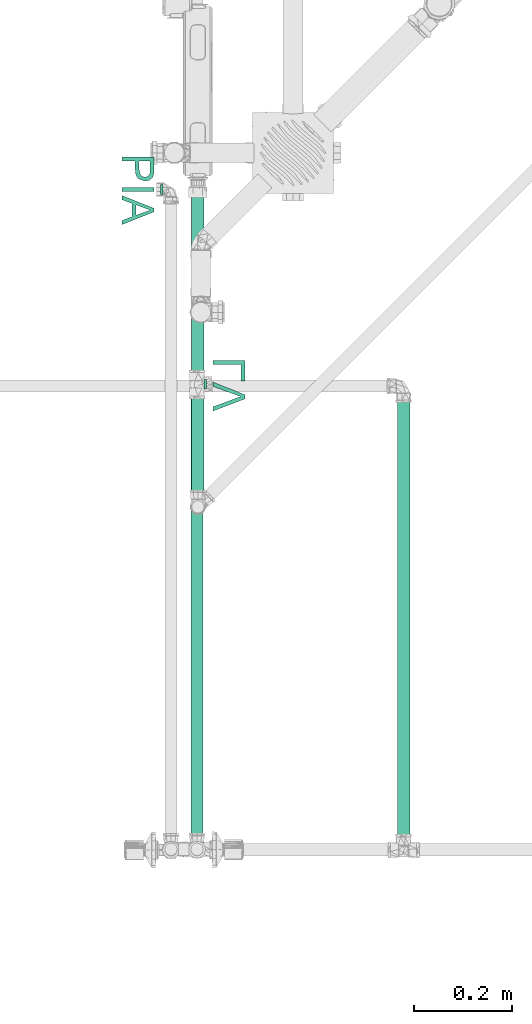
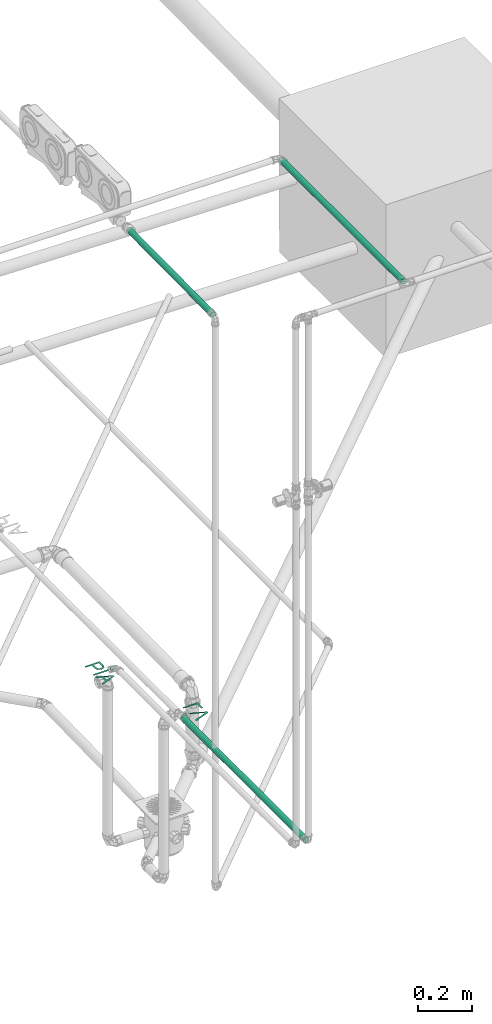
# One storey, part 195 of 589: 3 flow segments, 2 flow terminals.
"""IFC2X3 building model written with IfcOpenShell, lengths in millimetres."""

import ifcopenshell
import ifcopenshell.guid

model = None  # the IFC model being written
_history = None  # IfcOwnerHistory: only IFC2X3 demands one
_inside = {}  # id of a spatial element -> (the spatial element, [elements in it])
_under = {}  # id of a project, library or spatial element -> (it, [spatial elements below it])
_declared = {}  # id of a project -> (the project, [libraries it declares])
_typed = {}  # id of a type object -> (the type object, [elements of that type])
_made_of = {}  # id of a material, layer set ... -> (it, [elements and type objects made of it])


def new_model(schema):
    """Start an empty IFC model of exactly this schema.

    Asked for "IFC4X3", IfcOpenShell would pick the latest addendum, in which some entities
    have other attributes; the version numbers below select the first issue.
    IFC2X3 requires an IfcOwnerHistory on every rooted entity: one is made here for all.
    """
    global model, _history
    if schema == "IFC4X3":
        model = ifcopenshell.file(schema_version=(4, 3, 0, 0))
    else:
        model = ifcopenshell.file(schema=schema)
    _inside.clear()
    _under.clear()
    _declared.clear()
    _typed.clear()
    _made_of.clear()
    _history = None
    if model.schema == "IFC2X3":
        org = make("IfcOrganization", Name="unknown")
        user = make(
            "IfcPersonAndOrganization",
            ThePerson=make("IfcPerson", FamilyName="unknown"),
            TheOrganization=org,
        )
        app = make(
            "IfcApplication",
            ApplicationDeveloper=org,
            Version="unknown",
            ApplicationFullName="unknown",
            ApplicationIdentifier="unknown",
        )
        _history = make(
            "IfcOwnerHistory",
            OwningUser=user,
            OwningApplication=app,
            ChangeAction="ADDED",
            CreationDate=0,
        )
    return model


def make(cls, **values):
    """One entity of the class cls with the attributes given. An attribute that is None is left unset."""
    return model.create_entity(
        cls, **{name: value for name, value in values.items() if value is not None}
    )


def entity(cls, *values):
    """Any entity or typed value of the class cls, its attributes in the order of the schema. None: left unset."""
    e = model.create_entity(cls)
    for i, value in enumerate(values):
        if value is not None:
            e[i] = value
    return e


def rooted(cls, **values):
    """An entity with a GlobalId (a new one), such as an element, a storey or a relation."""
    return make(cls, GlobalId=ifcopenshell.guid.new(), OwnerHistory=_history, **values)


def si_unit(unit_type, name, prefix=None):
    """IfcSIUnit, for example si_unit("LENGTHUNIT", "METRE", prefix="MILLI")."""
    return make("IfcSIUnit", UnitType=unit_type, Prefix=prefix, Name=name)


def converted_unit(unit_type, name, factor, base, dimensions=None, offset=None):
    """IfcConversionBasedUnit, such as the inch: factor (a typed value) times the base unit."""
    return make(
        "IfcConversionBasedUnit"
        if offset is None
        else "IfcConversionBasedUnitWithOffset",
        ConversionOffset=offset,
        Dimensions=None
        if dimensions is None
        else entity("IfcDimensionalExponents", *dimensions),
        UnitType=unit_type,
        Name=name,
        ConversionFactor=make(
            "IfcMeasureWithUnit", ValueComponent=factor, UnitComponent=base
        ),
    )


def derived_unit(unit_type, elements):
    """IfcDerivedUnit: a product of units, each with its exponent."""
    return make(
        "IfcDerivedUnit",
        Elements=[
            make("IfcDerivedUnitElement", Unit=unit, Exponent=power)
            for unit, power in elements
        ],
        UnitType=unit_type,
    )


def assignment(units):
    """IfcUnitAssignment: the units of a project."""
    return None if units is None else make("IfcUnitAssignment", Units=units)


def point(xyz):
    """IfcCartesianPoint."""
    return None if xyz is None else make("IfcCartesianPoint", Coordinates=xyz)


def direction(xyz):
    """IfcDirection."""
    return None if xyz is None else make("IfcDirection", DirectionRatios=xyz)


def frame(location, z_axis=None, x_axis=None):
    """IfcAxis2Placement3D, a coordinate frame: its origin and axes. An axis left out is left unset."""
    return make(
        "IfcAxis2Placement3D",
        Location=point(location),
        Axis=direction(z_axis),
        RefDirection=direction(x_axis),
    )


def frame_2d(location, x_axis=None):
    """IfcAxis2Placement2D, a coordinate frame in the plane: its origin and x axis."""
    return make(
        "IfcAxis2Placement2D", Location=point(location), RefDirection=direction(x_axis)
    )


def origin():
    """The frame at (0, 0, 0) with its axes left unset."""
    return frame((0.0, 0.0, 0.0))


def origin_2d_with_axis():
    """The frame at (0, 0) in the plane with the x axis (1, 0) written out."""
    return frame_2d((0.0, 0.0), x_axis=(1.0, 0.0))


def place(relative_to, where):
    """IfcLocalPlacement: puts the frame where relative to a parent placement (None: the world)."""
    return make(
        "IfcLocalPlacement", PlacementRelTo=relative_to, RelativePlacement=where
    )


def context(
    kind, dimensions, precision=None, world=None, true_north=None, identifier=None
):
    """IfcGeometricRepresentationContext, for example the 3D "Model" context."""
    return make(
        "IfcGeometricRepresentationContext",
        ContextIdentifier=identifier,
        ContextType=kind,
        CoordinateSpaceDimension=dimensions,
        Precision=precision,
        WorldCoordinateSystem=world,
        TrueNorth=true_north,
    )


def subcontext(parent, identifier, kind, view, scale=None):
    """IfcGeometricRepresentationSubContext, for example "Body" below "Model"."""
    return make(
        "IfcGeometricRepresentationSubContext",
        ContextIdentifier=identifier,
        ContextType=kind,
        ParentContext=parent,
        TargetScale=scale,
        TargetView=view,
    )


def project(units=None, contexts=None):
    """IfcProject with its units and contexts."""
    return rooted(
        "IfcProject",
        Name="project",
        RepresentationContexts=contexts,
        UnitsInContext=assignment(units),
    )


def spatial(cls, under=None, at=None, **own):
    """A site, building, storey or space (cls), placed at a placement, below another one or the project."""
    s = rooted(cls, ObjectPlacement=at, **own)
    if under is not None:
        _under.setdefault(under.id(), (under, []))[1].append(s)
    return s


def profile(cls, at=None, kind="AREA", **sizes):
    """A parametric profile (cls). Its sizes go by their IFC names, for example OverallWidth=200.0."""
    return make(cls, ProfileType=kind, Position=at, **sizes)


def circle(**sizes):
    """IfcCircleProfileDef."""
    return profile("IfcCircleProfileDef", **sizes)


def extrude(swept, where, along, depth):
    """IfcExtrudedAreaSolid: the profile swept, set in the frame where, extruded along a direction by depth."""
    return make(
        "IfcExtrudedAreaSolid",
        SweptArea=swept,
        Position=where,
        ExtrudedDirection=direction(along),
        Depth=depth,
    )


def faces_of(points, faces, orient=None, outer=None):
    """IfcFace entities. A face is a list of loops; a loop is a list of indices into points, from 0.

    orient and outer hold one flag for each loop. By default every Orientation is true, the
    first loop of a face is its IfcFaceOuterBound and the others are IfcFaceBound.
    """
    made = []
    for i, loops in enumerate(faces):
        bounds = []
        for j, loop in enumerate(loops):
            is_outer = j == 0 if outer is None else outer[i][j]
            bounds.append(
                make(
                    "IfcFaceOuterBound" if is_outer else "IfcFaceBound",
                    Bound=make("IfcPolyLoop", Polygon=[points[k] for k in loop]),
                    Orientation=True if orient is None else orient[i][j],
                )
            )
        made.append(make("IfcFace", Bounds=bounds))
    return made


def face_set(faces, orient=None, outer=None):
    """The faces of one IfcConnectedFaceSet. surface_model builds it on its shared points."""
    return ("IfcConnectedFaceSet", faces, orient, outer)


def surface_model(cls, points, shells):
    """IfcFaceBasedSurfaceModel or IfcShellBasedSurfaceModel (cls): surfaces that need not close."""
    shared = [point(p) for p in points]
    made = [make(c, CfsFaces=faces_of(shared, fs, o, b)) for c, fs, o, b in shells]
    if cls == "IfcFaceBasedSurfaceModel":
        return make(cls, FbsmFaces=made)
    return make(cls, SbsmBoundary=made)


def shape(context_of_items, identifier, shape_type, items):
    """IfcShapeRepresentation: the items that make up one representation, for example the "Body"."""
    return make(
        "IfcShapeRepresentation",
        ContextOfItems=context_of_items,
        RepresentationIdentifier=identifier,
        RepresentationType=shape_type,
        Items=items,
    )


def source(mapping_origin, context_of_items, identifier, shape_type, items):
    """IfcRepresentationMap: a shape defined once, which mapped items show again and again."""
    return make(
        "IfcRepresentationMap",
        MappingOrigin=mapping_origin,
        MappedRepresentation=shape(context_of_items, identifier, shape_type, items),
    )


def transform(
    local_origin,
    x_axis=None,
    y_axis=None,
    z_axis=None,
    scale=None,
    scale2=None,
    scale3=None,
    uniform=True,
):
    """IfcCartesianTransformationOperator3D, or its non-uniform kind. x_axis, y_axis, z_axis: its Axis1, 2, 3."""
    if uniform:
        return make(
            "IfcCartesianTransformationOperator3D",
            Axis1=direction(x_axis),
            Axis2=direction(y_axis),
            LocalOrigin=point(local_origin),
            Scale=scale,
            Axis3=direction(z_axis),
        )
    return make(
        "IfcCartesianTransformationOperator3DnonUniform",
        Axis1=direction(x_axis),
        Axis2=direction(y_axis),
        LocalOrigin=point(local_origin),
        Scale=scale,
        Axis3=direction(z_axis),
        Scale2=scale2,
        Scale3=scale3,
    )


def mapped(mapping_source, mapping_target):
    """IfcMappedItem: shows the shape of a source again, moved by a transform."""
    return make(
        "IfcMappedItem", MappingSource=mapping_source, MappingTarget=mapping_target
    )


def material(Name=None, Category=None):
    """IfcMaterial."""
    return make("IfcMaterial", Name=Name, Category=Category)


def made_of(thing, what):
    """Note that an element or type object is made of a material, layer set ...; save() writes the relation."""
    if what is not None:
        _made_of.setdefault(what.id(), (what, []))[1].append(thing)
    return thing


def type_object(cls, material=None, **own):
    """A type object (cls), such as IfcWallType, which elements share."""
    return made_of(rooted(cls, **own), material)


def type_shapes(of_type, sources):
    """Give a type object the sources (RepresentationMaps) that its elements show as mapped items."""
    of_type.RepresentationMaps = sources


def element(
    cls,
    number,
    at=None,
    inside=None,
    cuts=None,
    type_object=None,
    material=None,
    context=None,
    identifier="Body",
    shape_type=None,
    held_by="IfcProductDefinitionShape",
    body=None,
    shapes=None,
    **own,
):
    """One element of the class cls, such as IfcWall. Its Tag is "e" and its number.

    at: its placement. inside: the storey or other place that contains it. cuts: it is an
    opening in that element (IfcRelVoidsElement). A single representation is given by context,
    identifier, shape_type and body (its items); several are given by shapes. held_by: the class
    of the entity that holds the representations. save() writes the other relations.
    """
    e = rooted(cls, Tag="e%d" % number, ObjectPlacement=at, **own)
    if body is not None:
        shapes = [shape(context, identifier, shape_type, body)]
    if shapes is not None:
        e.Representation = make(held_by, Representations=shapes)
    if inside is not None:
        _inside.setdefault(inside.id(), (inside, []))[1].append(e)
    if cuts is not None:
        rooted(
            "IfcRelVoidsElement", RelatingBuildingElement=cuts, RelatedOpeningElement=e
        )
    if type_object is not None:
        _typed.setdefault(type_object.id(), (type_object, []))[1].append(e)
    return made_of(e, material)


def aggregate(whole, parts):
    """IfcRelAggregates: a whole, such as a stair, and the parts it consists of."""
    return rooted("IfcRelAggregates", RelatingObject=whole, RelatedObjects=parts)


def save(model, path):
    """Write the relations noted so far, then the file.

    IfcRelAggregates (storeys below a building ...), IfcRelContainedInSpatialStructure (elements
    in a storey), IfcRelDefinesByType, IfcRelAssociatesMaterial and IfcRelDeclares: one each for
    every whole, place, type object, material and project.
    """
    for whole, parts in _under.values():
        aggregate(whole, parts)
    for where, things in _inside.values():
        rooted(
            "IfcRelContainedInSpatialStructure",
            RelatedElements=things,
            RelatingStructure=where,
        )
    for kind, things in _typed.values():
        rooted("IfcRelDefinesByType", RelatedObjects=things, RelatingType=kind)
    for what, things in _made_of.values():
        rooted("IfcRelAssociatesMaterial", RelatedObjects=things, RelatingMaterial=what)
    for by, libraries in _declared.values():
        rooted("IfcRelDeclares", RelatingContext=by, RelatedDefinitions=libraries)
    model.write(path)


model = new_model("IFC2X3")

# Units and contexts
model_context = context("Model", 3, precision=0.01, world=origin(), true_north=direction((6.123031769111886e-17, 1.0)))
body_context = subcontext(model_context, "Body", "Model", "MODEL_VIEW")
ifc_project = project(units=[si_unit("LENGTHUNIT", "METRE", prefix="MILLI"), si_unit("AREAUNIT", "SQUARE_METRE"), si_unit("VOLUMEUNIT", "CUBIC_METRE"), converted_unit("PLANEANGLEUNIT", "DEGREE", entity("IfcRatioMeasure", 0.017453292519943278), si_unit("PLANEANGLEUNIT", "RADIAN"), dimensions=[0, 0, 0, 0, 0, 0, 0]), si_unit("MASSUNIT", "GRAM", prefix="KILO"), derived_unit("MASSDENSITYUNIT", [(si_unit("MASSUNIT", "GRAM", prefix="KILO"), 1), (si_unit("LENGTHUNIT", "METRE"), -3)]), derived_unit("IONCONCENTRATIONUNIT", [(si_unit("MASSUNIT", "GRAM", prefix="KILO"), 1), (si_unit("LENGTHUNIT", "METRE"), -3)]), derived_unit("MOMENTOFINERTIAUNIT", [(si_unit("LENGTHUNIT", "METRE"), 4)]), si_unit("TIMEUNIT", "SECOND"), si_unit("FREQUENCYUNIT", "HERTZ"), si_unit("THERMODYNAMICTEMPERATUREUNIT", "DEGREE_CELSIUS"), derived_unit("THERMALTRANSMITTANCEUNIT", [(si_unit("MASSUNIT", "GRAM", prefix="KILO"), 1), (si_unit("THERMODYNAMICTEMPERATUREUNIT", "KELVIN"), -1), (si_unit("TIMEUNIT", "SECOND"), -3)]), derived_unit("THERMALCONDUCTANCEUNIT", [(si_unit("MASSUNIT", "GRAM", prefix="KILO"), 1), (si_unit("THERMODYNAMICTEMPERATUREUNIT", "KELVIN"), -1), (si_unit("TIMEUNIT", "SECOND"), -3), (si_unit("LENGTHUNIT", "METRE"), 1)]), derived_unit("VOLUMETRICFLOWRATEUNIT", [(si_unit("LENGTHUNIT", "METRE"), 3), (si_unit("TIMEUNIT", "SECOND"), -1)]), derived_unit("MASSFLOWRATEUNIT", [(si_unit("MASSUNIT", "GRAM", prefix="KILO"), 1), (si_unit("TIMEUNIT", "SECOND"), -1)]), derived_unit("ROTATIONALFREQUENCYUNIT", [(si_unit("TIMEUNIT", "SECOND"), -1)]), si_unit("ELECTRICCURRENTUNIT", "AMPERE"), si_unit("ELECTRICVOLTAGEUNIT", "VOLT"), si_unit("POWERUNIT", "WATT"), si_unit("FORCEUNIT", "NEWTON", prefix="KILO"), si_unit("ILLUMINANCEUNIT", "LUX"), si_unit("LUMINOUSFLUXUNIT", "LUMEN"), si_unit("LUMINOUSINTENSITYUNIT", "CANDELA"), derived_unit("USERDEFINED", [(si_unit("MASSUNIT", "GRAM", prefix="KILO"), -1), (si_unit("LENGTHUNIT", "METRE"), -2), (si_unit("TIMEUNIT", "SECOND"), 3), (si_unit("LUMINOUSFLUXUNIT", "LUMEN"), 1)]), derived_unit("USERDEFINED", [(si_unit("MASSUNIT", "GRAM", prefix="KILO"), 1), (si_unit("TIMEUNIT", "SECOND"), -3), (si_unit("LENGTHUNIT", "METRE"), 3), (si_unit("ELECTRICCURRENTUNIT", "AMPERE"), -2)]), derived_unit("SOUNDPOWERUNIT", [(si_unit("MASSUNIT", "GRAM", prefix="KILO"), 1), (si_unit("TIMEUNIT", "SECOND"), -3), (si_unit("LENGTHUNIT", "METRE"), 2)]), derived_unit("SOUNDPRESSUREUNIT", [(si_unit("MASSUNIT", "GRAM", prefix="KILO"), 1), (si_unit("LENGTHUNIT", "METRE"), -1), (si_unit("TIMEUNIT", "SECOND"), -2)]), derived_unit("LINEARVELOCITYUNIT", [(si_unit("LENGTHUNIT", "METRE"), 1), (si_unit("TIMEUNIT", "SECOND"), -1)]), si_unit("PRESSUREUNIT", "PASCAL"), derived_unit("USERDEFINED", [(si_unit("MASSUNIT", "GRAM", prefix="KILO"), 1), (si_unit("LENGTHUNIT", "METRE"), -2), (si_unit("TIMEUNIT", "SECOND"), -2)]), derived_unit("LINEARFORCEUNIT", [(si_unit("MASSUNIT", "GRAM", prefix="KILO"), 1), (si_unit("TIMEUNIT", "SECOND"), -2)]), derived_unit("PLANARFORCEUNIT", [(si_unit("MASSUNIT", "GRAM", prefix="KILO"), 1), (si_unit("LENGTHUNIT", "METRE"), -1), (si_unit("TIMEUNIT", "SECOND"), -2)]), derived_unit("SPECIFICHEATCAPACITYUNIT", [(si_unit("THERMODYNAMICTEMPERATUREUNIT", "KELVIN"), -1), (si_unit("LENGTHUNIT", "METRE"), 2), (si_unit("TIMEUNIT", "SECOND"), -2)]), derived_unit("HEATINGVALUEUNIT", [(si_unit("LENGTHUNIT", "METRE"), 2), (si_unit("TIMEUNIT", "SECOND"), -2)]), derived_unit("VAPORPERMEABILITYUNIT", [(si_unit("LENGTHUNIT", "METRE"), -1), (si_unit("TIMEUNIT", "SECOND"), 1)]), derived_unit("DYNAMICVISCOSITYUNIT", [(si_unit("MASSUNIT", "GRAM", prefix="KILO"), 1), (si_unit("TIMEUNIT", "SECOND"), -1), (si_unit("LENGTHUNIT", "METRE"), -1)]), derived_unit("THERMALEXPANSIONCOEFFICIENTUNIT", [(si_unit("THERMODYNAMICTEMPERATUREUNIT", "KELVIN"), -1)]), derived_unit("MODULUSOFELASTICITYUNIT", [(si_unit("MASSUNIT", "GRAM", prefix="KILO"), 1), (si_unit("LENGTHUNIT", "METRE"), -1), (si_unit("TIMEUNIT", "SECOND"), -2)]), derived_unit("ISOTHERMALMOISTURECAPACITYUNIT", [(si_unit("LENGTHUNIT", "METRE"), 3), (si_unit("MASSUNIT", "GRAM", prefix="KILO"), -1)]), derived_unit("MOISTUREDIFFUSIVITYUNIT", [(si_unit("TIMEUNIT", "SECOND"), -1), (si_unit("LENGTHUNIT", "METRE"), 2)])], contexts=[model_context])

# Site, building, storey
site_placement = place(None, origin())
site = spatial("IfcSite", under=ifc_project, at=site_placement, Name="Default", CompositionType="ELEMENT")
building_placement = place(site_placement, origin())
building = spatial("IfcBuilding", under=site, at=building_placement, CompositionType="ELEMENT")
storey_placement = place(building_placement, frame((0.0, 0.0, 100.0)))
storey = spatial("IfcBuildingStorey", under=building, at=storey_placement, Name="TÉRREO", CompositionType="ELEMENT", Elevation=100.0)

# Flow segments
pipe_segment_type = type_object("IfcPipeSegmentType", Name="Tipos de tubos:PVC Marrom Soldável", PredefinedType="NOTDEFINED")
flow_segment_1_placement = place(storey_placement, origin())
element("IfcFlowSegment", 1, at=flow_segment_1_placement, inside=storey, type_object=pipe_segment_type, Name="Tipos de tubos:PVC Marrom Soldável", ObjectType="Tipos de tubos:PVC Marrom Soldável", context=body_context, shape_type="SweptSolid", body=[
    extrude(circle(Radius=12.5, at=frame_2d((1.0828671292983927e-12, 1.353516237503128e-15), x_axis=(1.0, 0.0))), frame((7355.842598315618, -1178.980227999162, 2571.112419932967), z_axis=(0.0, 0.9999500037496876, 0.009999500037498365), x_axis=(-1.0, 0.0, 0.0)), (0.0, 0.0, 1.0), 628.7654450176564),
])
flow_segment_2_placement = place(storey_placement, origin())
element("IfcFlowSegment", 2, at=flow_segment_2_placement, inside=storey, type_object=pipe_segment_type, Name="Tipos de tubos:PVC Marrom Soldável", ObjectType="Tipos de tubos:PVC Marrom Soldável", context=body_context, shape_type="SweptSolid", body=[
    extrude(circle(Radius=12.5, at=origin_2d_with_axis()), frame((7354.0693812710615, -1877.0162401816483, 600.0), z_axis=(0.0, 1.0, 0.0), x_axis=(1.0, 0.0, 0.0)), (0.0, 0.0, 1.0), 917.3106169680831),
])
flow_segment_3_placement = place(storey_placement, origin())
element("IfcFlowSegment", 3, at=flow_segment_3_placement, inside=storey, type_object=pipe_segment_type, Name="Tipos de tubos:PVC Marrom Soldável", ObjectType="Tipos de tubos:PVC Marrom Soldável", context=body_context, shape_type="SweptSolid", body=[
    extrude(circle(Radius=12.5, at=origin_2d_with_axis()), frame((7774.146804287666, -1878.594841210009, 3000.0), z_axis=(0.0, 1.0, 0.0), x_axis=(1.0, 0.0, 0.0)), (0.0, 0.0, 1.0), 913.3183100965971),
])

# Flow terminals
ifc_material = material(Name="<Unnamed>")
distribution_element_type_1 = type_object("IfcDistributionElementType", Name="Hidráulica_Ponto de Utilização_Uso Provável_Rodrigo MEP:Lavatório LV (Peso 0,3) 60cm do Piso", material=ifc_material)
shared_shape_1 = source(origin(), body_context, "Body", "SurfaceModel", [
    surface_model("IfcFaceBasedSurfaceModel", [(0.0, 83.06704158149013, 11.595272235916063), (0.0, 17.77043998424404, 11.595272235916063), (8.162075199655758, 17.77043998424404, 11.595272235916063), (8.162075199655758, 74.90496638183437, 11.595272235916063), (40.81037599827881, 74.90496638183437, 11.595272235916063), (40.81037599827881, 83.06704158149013, 11.595272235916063), (69.281989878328, 83.06704158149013, 11.595272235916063), (43.29725828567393, 17.77043998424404, 11.595272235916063), (52.03322939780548, 17.77043998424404, 11.595272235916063), (69.42546385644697, 64.81396325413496, 11.595272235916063), (72.94854709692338, 75.41509608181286, 11.595272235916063), (76.4238056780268, 64.81396325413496, 11.595272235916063), (93.86386479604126, 17.77043998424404, 11.595272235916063), (102.59983590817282, 17.77043998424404, 11.595272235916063), (77.71507148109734, 83.06704158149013, 11.595272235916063), (37.95219179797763, 5.0, 11.595272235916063), (38.292933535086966, 5.0, 14.18346268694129), (39.291937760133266, 5.0, 16.595272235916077), (40.88112398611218, 5.0, 18.666340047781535), (42.95219179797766, 5.0, 20.255526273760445), (45.36400134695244, 5.0, 21.254530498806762), (47.952191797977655, 5.0, 21.59527223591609), (50.54038224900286, 5.0, 21.254530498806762), (52.95219179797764, 5.0, 20.255526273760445), (55.023259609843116, 5.0, 18.666340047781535), (56.61244583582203, 5.0, 16.595272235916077), (57.61145006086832, 5.0, 14.18346268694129), (57.95219179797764, 5.0, 11.595272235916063), (57.6114500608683, 5.0, 9.007081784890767), (56.612445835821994, 5.0, 6.595272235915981), (55.02325960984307, 5.0, 4.524204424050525), (52.95219179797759, 5.0, 2.9350181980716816), (50.540382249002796, 5.0, 1.936013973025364), (47.95219179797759, 5.0, 1.5952722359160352), (45.36400134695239, 5.0, 1.936013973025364), (42.952191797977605, 5.0, 2.9350181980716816), (40.88112398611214, 5.0, 4.524204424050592), (39.29193776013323, 5.0, 6.595272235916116), (38.292933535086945, 5.0, 9.007081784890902), (37.95219179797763, 0.0, 11.595272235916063), (38.292933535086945, 0.0, 9.007081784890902), (39.29193776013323, 0.0, 6.595272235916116), (40.88112398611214, 0.0, 4.524204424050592), (42.952191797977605, 0.0, 2.9350181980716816), (45.36400134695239, 0.0, 1.936013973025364), (47.95219179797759, 0.0, 1.5952722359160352), (50.540382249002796, 0.0, 1.936013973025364), (52.95219179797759, 0.0, 2.9350181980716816), (55.02325960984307, 0.0, 4.524204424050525), (56.612445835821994, 0.0, 6.595272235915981), (57.6114500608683, 0.0, 9.007081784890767), (57.95219179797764, 0.0, 11.595272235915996), (57.61145006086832, 0.0, 14.18346268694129), (56.61244583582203, 0.0, 16.595272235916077), (55.023259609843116, 0.0, 18.666340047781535), (52.95219179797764, 0.0, 20.255526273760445), (50.54038224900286, 0.0, 21.254530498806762), (47.952191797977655, 0.0, 21.59527223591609), (45.36400134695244, 0.0, 21.254530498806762), (42.95219179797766, 0.0, 20.255526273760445), (40.88112398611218, 0.0, 18.666340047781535), (39.291937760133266, 0.0, 16.595272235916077), (38.292933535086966, 0.0, 14.18346268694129)], [face_set([[[0, 1, 2, 3, 4, 5]], [[6, 7, 8, 9, 10, 11, 12, 13, 14]]]), face_set([[[15, 16, 17, 18, 19, 20, 21, 22, 23, 24, 25, 26, 27, 28, 29, 30, 31, 32, 33, 34, 35, 36, 37, 38]], [[39, 40, 41, 42, 43, 44, 45, 46, 47, 48, 49, 50, 51, 52, 53, 54, 55, 56, 57, 58, 59, 60, 61, 62]], [[38, 40, 39, 15]], [[37, 41, 40, 38]], [[35, 43, 42, 36]], [[36, 42, 41, 37]], [[34, 44, 43, 35]], [[44, 34, 33, 45]], [[32, 46, 45, 33]], [[31, 47, 46, 32]], [[29, 49, 48, 30]], [[30, 48, 47, 31]], [[28, 50, 49, 29]], [[50, 28, 27, 51]], [[26, 52, 51, 27]], [[25, 53, 52, 26]], [[23, 55, 54, 24]], [[24, 54, 53, 25]], [[22, 56, 55, 23]], [[56, 22, 21, 57]], [[20, 58, 57, 21]], [[19, 59, 58, 20]], [[17, 61, 60, 18]], [[18, 60, 59, 19]], [[16, 62, 61, 17]], [[62, 16, 15, 39]]])]),
])
type_shapes(distribution_element_type_1, [shared_shape_1])
flow_terminal_1_placement = place(storey_placement, frame((7368.469381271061, -898.3534314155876, 588.4047277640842), z_axis=(0.0, 0.0, 1.0), x_axis=(0.0, -1.0, 0.0)))
element("IfcFlowTerminal", 4, at=flow_terminal_1_placement, inside=storey, type_object=distribution_element_type_1, material=ifc_material, Name="Hidráulica_Ponto de Utilização_Uso Provável_Rodrigo MEP:Lavatório LV (Peso 0,3) 60cm do Piso", ObjectType="Hidráulica_Ponto de Utilização_Uso Provável_Rodrigo MEP:Lavatório LV (Peso 0,3) 60cm do Piso", context=body_context, shape_type="MappedRepresentation", body=[
    mapped(shared_shape_1, transform((0.0, 0.0, 0.0), scale=1.0)),
])
distribution_element_type_2 = type_object("IfcDistributionElementType", Name="Hidráulica_Ponto de Utilização_Uso Provável_Rodrigo MEP:Pia com torneira ou misturador(Peso 0,7)", material=ifc_material)
shared_shape_2 = source(origin(), body_context, "Body", "SurfaceModel", [
    surface_model("IfcFaceBasedSurfaceModel", [(0.0, 0.0, 11.595272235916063), (8.162075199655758, 0.0, 11.595272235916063), (8.162075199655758, 26.52674439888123, 11.595272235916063), (24.757232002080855, 26.52674439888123, 11.595272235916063), (36.352719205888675, 27.96945495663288, 11.595272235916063), (43.7197094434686, 32.29758662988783, 11.595272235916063), (48.97245119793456, 46.405861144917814, 11.595272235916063), (47.02758171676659, 55.30921856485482, 11.595272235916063), (41.88643083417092, 61.62207360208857, 11.595272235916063), (33.95550815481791, 64.67488102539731, 11.595272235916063), (24.199277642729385, 65.2966015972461, 11.595272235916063), (0.0, 65.2966015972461, 11.595272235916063), (8.162075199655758, 34.68881959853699, 11.595272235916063), (8.162075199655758, 57.13452639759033, 11.595272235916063), (25.044179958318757, 57.13452639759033, 11.595272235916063), (33.20625515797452, 56.57657203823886, 11.595272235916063), (38.71406176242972, 52.878131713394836, 11.595272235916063), (40.81037599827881, 46.11891318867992, 11.595272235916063), (37.25540965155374, 37.685831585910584, 11.595272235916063), (25.235478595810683, 34.68881959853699, 11.595272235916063), (61.21556399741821, 0.0, 11.595272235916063), (69.37763919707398, 0.0, 11.595272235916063), (69.37763919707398, 65.2966015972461, 11.595272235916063), (61.21556399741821, 65.2966015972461, 11.595272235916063), (78.0976687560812, 0.0, 11.595272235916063), (86.72204899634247, 0.0, 11.595272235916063), (94.18269585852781, 20.405187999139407, 11.595272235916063), (121.07609597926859, 20.405187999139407, 11.595272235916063), (128.55268439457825, 0.0, 11.595272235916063), (137.17706463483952, 0.0, 11.595272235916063), (111.11262527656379, 65.2966015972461, 11.595272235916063), (104.16210811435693, 65.2966015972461, 11.595272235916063), (97.17970784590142, 28.567263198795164, 11.595272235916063), (103.5722706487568, 46.02326386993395, 11.595272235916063), (107.63736669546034, 57.13452639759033, 11.595272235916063), (112.21259244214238, 44.62040719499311, 11.595272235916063), (118.0950255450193, 28.567263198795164, 11.595272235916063), (55.806731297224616, 78.06704158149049, 11.595272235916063), (56.14747303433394, 78.06704158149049, 14.18346268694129), (57.14647725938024, 78.06704158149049, 16.595272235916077), (58.735663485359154, 78.06704158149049, 18.666340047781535), (60.80673129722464, 78.06704158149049, 20.255526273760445), (63.218540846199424, 78.06704158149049, 21.254530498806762), (65.80673129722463, 78.06704158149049, 21.59527223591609), (68.39492174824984, 78.06704158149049, 21.254530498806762), (70.80673129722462, 78.06704158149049, 20.255526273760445), (72.87779910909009, 78.06704158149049, 18.666340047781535), (74.46698533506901, 78.06704158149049, 16.595272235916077), (75.4659895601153, 78.06704158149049, 14.18346268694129), (75.80673129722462, 78.06704158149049, 11.595272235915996), (75.46598956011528, 78.06704158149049, 9.007081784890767), (74.46698533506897, 78.06704158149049, 6.595272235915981), (72.87779910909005, 78.06704158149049, 4.524204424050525), (70.80673129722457, 78.06704158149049, 2.9350181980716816), (68.39492174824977, 78.06704158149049, 1.936013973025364), (65.80673129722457, 78.06704158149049, 1.5952722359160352), (63.218540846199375, 78.06704158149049, 1.936013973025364), (60.80673129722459, 78.06704158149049, 2.9350181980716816), (58.73566348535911, 78.06704158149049, 4.524204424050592), (57.14647725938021, 78.06704158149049, 6.595272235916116), (56.14747303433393, 78.06704158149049, 9.007081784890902), (55.806731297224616, 83.06704158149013, 11.595272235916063), (56.14747303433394, 83.06704158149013, 14.18346268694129), (57.14647725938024, 83.06704158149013, 16.595272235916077), (58.735663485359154, 83.06704158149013, 18.666340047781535), (60.80673129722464, 83.06704158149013, 20.255526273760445), (63.218540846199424, 83.06704158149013, 21.254530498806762), (65.80673129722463, 83.06704158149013, 21.59527223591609), (68.39492174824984, 83.06704158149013, 21.254530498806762), (70.80673129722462, 83.06704158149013, 20.255526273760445), (72.87779910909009, 83.06704158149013, 18.666340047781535), (74.46698533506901, 83.06704158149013, 16.595272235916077), (75.4659895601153, 83.06704158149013, 14.18346268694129), (75.80673129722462, 83.06704158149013, 11.595272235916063), (75.46598956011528, 83.06704158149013, 9.007081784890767), (74.46698533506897, 83.06704158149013, 6.595272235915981), (72.87779910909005, 83.06704158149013, 4.524204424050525), (70.80673129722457, 83.06704158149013, 2.9350181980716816), (68.39492174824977, 83.06704158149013, 1.936013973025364), (65.80673129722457, 83.06704158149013, 1.5952722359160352), (63.218540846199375, 83.06704158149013, 1.936013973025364), (60.80673129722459, 83.06704158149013, 2.9350181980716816), (58.73566348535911, 83.06704158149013, 4.524204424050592), (57.14647725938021, 83.06704158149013, 6.595272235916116), (56.14747303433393, 83.06704158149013, 9.007081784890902)], [face_set([[[0, 1, 2, 3, 4, 5, 6, 7, 8, 9, 10, 11], [12, 13, 14, 15, 16, 17, 18, 19]], [[20, 21, 22, 23]], [[24, 25, 26, 27, 28, 29, 30, 31], [32, 33, 34, 35, 36]]]), face_set([[[37, 38, 39, 40, 41, 42, 43, 44, 45, 46, 47, 48, 49, 50, 51, 52, 53, 54, 55, 56, 57, 58, 59, 60]], [[61, 62, 63, 64, 65, 66, 67, 68, 69, 70, 71, 72, 73, 74, 75, 76, 77, 78, 79, 80, 81, 82, 83, 84]], [[61, 84, 60, 37]], [[84, 83, 59, 60]], [[82, 81, 57, 58]], [[83, 82, 58, 59]], [[81, 80, 56, 57]], [[55, 56, 80, 79]], [[79, 78, 54, 55]], [[78, 77, 53, 54]], [[76, 75, 51, 52]], [[77, 76, 52, 53]], [[75, 74, 50, 51]], [[49, 50, 74, 73]], [[73, 72, 48, 49]], [[72, 71, 47, 48]], [[70, 69, 45, 46]], [[71, 70, 46, 47]], [[69, 68, 44, 45]], [[43, 44, 68, 67]], [[67, 66, 42, 43]], [[66, 65, 41, 42]], [[64, 63, 39, 40]], [[65, 64, 40, 41]], [[63, 62, 38, 39]], [[37, 38, 62, 61]]])]),
])
type_shapes(distribution_element_type_2, [shared_shape_2])
flow_terminal_2_placement = place(storey_placement, frame((7201.802349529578, -484.4827700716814, 588.4047277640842), z_axis=(0.0, 0.0, 1.0), x_axis=(0.0, -1.0, 0.0)))
element("IfcFlowTerminal", 5, at=flow_terminal_2_placement, inside=storey, type_object=distribution_element_type_2, material=ifc_material, Name="Hidráulica_Ponto de Utilização_Uso Provável_Rodrigo MEP:Pia com torneira ou misturador(Peso 0,7)", ObjectType="Hidráulica_Ponto de Utilização_Uso Provável_Rodrigo MEP:Pia com torneira ou misturador(Peso 0,7)", context=body_context, shape_type="MappedRepresentation", body=[
    mapped(shared_shape_2, transform((0.0, 0.0, 0.0), scale=1.0)),
])

save(model, "model.ifc")
